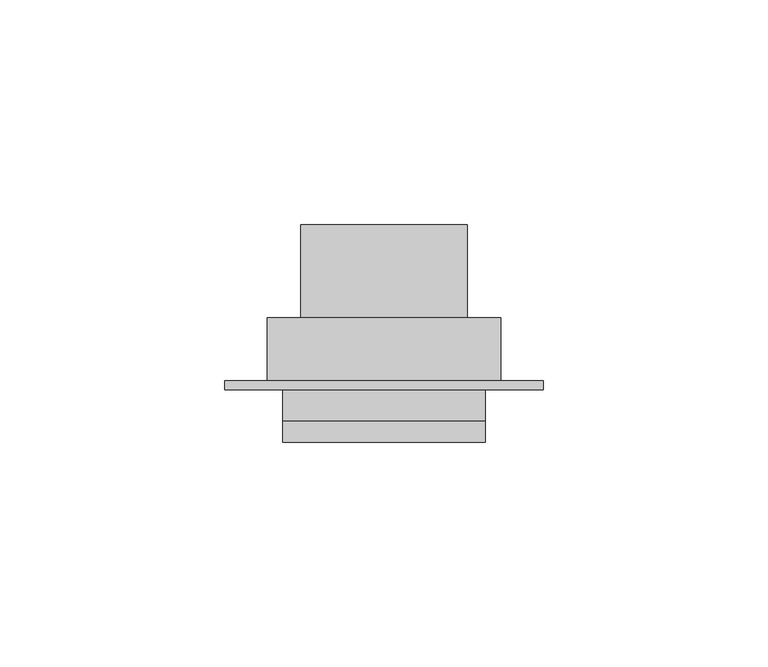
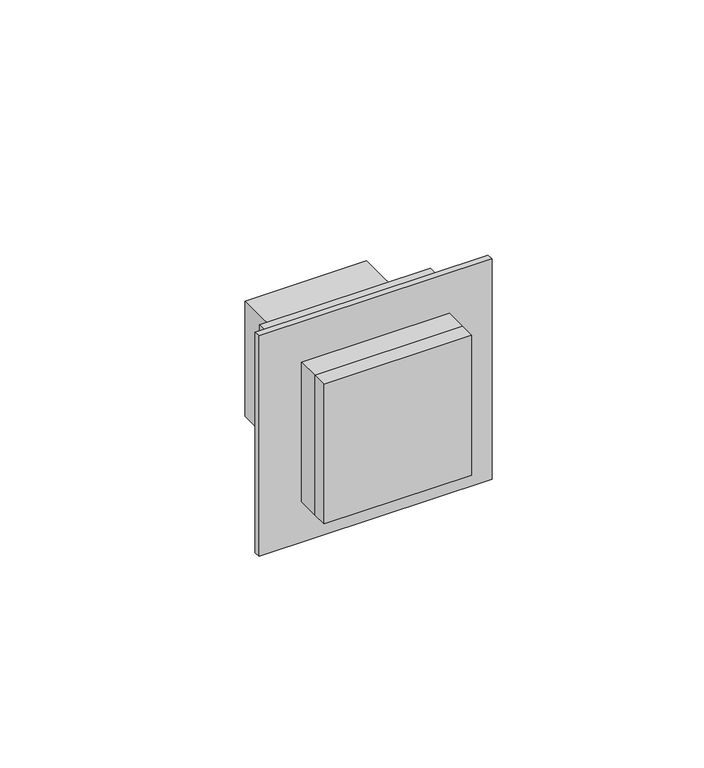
"""IFC4 building model written with IfcOpenShell, lengths in millimetres: proxy geometry."""

import ifcopenshell
import ifcopenshell.guid

model = None  # the IFC model being written
_history = None  # IfcOwnerHistory: only IFC2X3 demands one
_inside = {}  # id of a spatial element -> (the spatial element, [elements in it])
_under = {}  # id of a project, library or spatial element -> (it, [spatial elements below it])
_declared = {}  # id of a project -> (the project, [libraries it declares])
_typed = {}  # id of a type object -> (the type object, [elements of that type])
_made_of = {}  # id of a material, layer set ... -> (it, [elements and type objects made of it])


def new_model(schema):
    """Start an empty IFC model of exactly this schema.

    Asked for "IFC4X3", IfcOpenShell would pick the latest addendum, in which some entities
    have other attributes; the version numbers below select the first issue.
    IFC2X3 requires an IfcOwnerHistory on every rooted entity: one is made here for all.
    """
    global model, _history
    if schema == "IFC4X3":
        model = ifcopenshell.file(schema_version=(4, 3, 0, 0))
    else:
        model = ifcopenshell.file(schema=schema)
    _inside.clear()
    _under.clear()
    _declared.clear()
    _typed.clear()
    _made_of.clear()
    _history = None
    if model.schema == "IFC2X3":
        org = make("IfcOrganization", Name="unknown")
        user = make(
            "IfcPersonAndOrganization",
            ThePerson=make("IfcPerson", FamilyName="unknown"),
            TheOrganization=org,
        )
        app = make(
            "IfcApplication",
            ApplicationDeveloper=org,
            Version="unknown",
            ApplicationFullName="unknown",
            ApplicationIdentifier="unknown",
        )
        _history = make(
            "IfcOwnerHistory",
            OwningUser=user,
            OwningApplication=app,
            ChangeAction="ADDED",
            CreationDate=0,
        )
    return model


def make(cls, **values):
    """One entity of the class cls with the attributes given. An attribute that is None is left unset."""
    return model.create_entity(
        cls, **{name: value for name, value in values.items() if value is not None}
    )


def rooted(cls, **values):
    """An entity with a GlobalId (a new one), such as an element, a storey or a relation."""
    return make(cls, GlobalId=ifcopenshell.guid.new(), OwnerHistory=_history, **values)


def si_unit(unit_type, name, prefix=None):
    """IfcSIUnit, for example si_unit("LENGTHUNIT", "METRE", prefix="MILLI")."""
    return make("IfcSIUnit", UnitType=unit_type, Prefix=prefix, Name=name)


def assignment(units):
    """IfcUnitAssignment: the units of a project."""
    return None if units is None else make("IfcUnitAssignment", Units=units)


def point(xyz):
    """IfcCartesianPoint."""
    return None if xyz is None else make("IfcCartesianPoint", Coordinates=xyz)


def direction(xyz):
    """IfcDirection."""
    return None if xyz is None else make("IfcDirection", DirectionRatios=xyz)


def frame(location, z_axis=None, x_axis=None):
    """IfcAxis2Placement3D, a coordinate frame: its origin and axes. An axis left out is left unset."""
    return make(
        "IfcAxis2Placement3D",
        Location=point(location),
        Axis=direction(z_axis),
        RefDirection=direction(x_axis),
    )


def origin():
    """The frame at (0, 0, 0) with its axes left unset."""
    return frame((0.0, 0.0, 0.0))


def place(relative_to, where):
    """IfcLocalPlacement: puts the frame where relative to a parent placement (None: the world)."""
    return make(
        "IfcLocalPlacement", PlacementRelTo=relative_to, RelativePlacement=where
    )


def context(
    kind, dimensions, precision=None, world=None, true_north=None, identifier=None
):
    """IfcGeometricRepresentationContext, for example the 3D "Model" context."""
    return make(
        "IfcGeometricRepresentationContext",
        ContextIdentifier=identifier,
        ContextType=kind,
        CoordinateSpaceDimension=dimensions,
        Precision=precision,
        WorldCoordinateSystem=world,
        TrueNorth=true_north,
    )


def project(units=None, contexts=None):
    """IfcProject with its units and contexts."""
    return rooted(
        "IfcProject",
        Name="project",
        RepresentationContexts=contexts,
        UnitsInContext=assignment(units),
    )


def spatial(cls, under=None, at=None, **own):
    """A site, building, storey or space (cls), placed at a placement, below another one or the project."""
    s = rooted(cls, ObjectPlacement=at, **own)
    if under is not None:
        _under.setdefault(under.id(), (under, []))[1].append(s)
    return s


def polyline(points):
    """IfcPolyline through the points."""
    return make("IfcPolyline", Points=[point(p) for p in points])


def circle_curve(where, radius):
    """IfcCircle in the frame where."""
    return make("IfcCircle", Position=where, Radius=radius)


def outline(outer, holes=None, kind="AREA"):
    """IfcArbitraryClosedProfileDef: a profile drawn as a closed curve; with holes, ...WithVoids."""
    if holes is None:
        return make("IfcArbitraryClosedProfileDef", ProfileType=kind, OuterCurve=outer)
    return make(
        "IfcArbitraryProfileDefWithVoids",
        ProfileType=kind,
        OuterCurve=outer,
        InnerCurves=holes,
    )


def extrude(swept, where, along, depth):
    """IfcExtrudedAreaSolid: the profile swept, set in the frame where, extruded along a direction by depth."""
    return make(
        "IfcExtrudedAreaSolid",
        SweptArea=swept,
        Position=where,
        ExtrudedDirection=direction(along),
        Depth=depth,
    )


def shape(context_of_items, identifier, shape_type, items):
    """IfcShapeRepresentation: the items that make up one representation, for example the "Body"."""
    return make(
        "IfcShapeRepresentation",
        ContextOfItems=context_of_items,
        RepresentationIdentifier=identifier,
        RepresentationType=shape_type,
        Items=items,
    )


def source(mapping_origin, context_of_items, identifier, shape_type, items):
    """IfcRepresentationMap: a shape defined once, which mapped items show again and again."""
    return make(
        "IfcRepresentationMap",
        MappingOrigin=mapping_origin,
        MappedRepresentation=shape(context_of_items, identifier, shape_type, items),
    )


def transform(
    local_origin,
    x_axis=None,
    y_axis=None,
    z_axis=None,
    scale=None,
    scale2=None,
    scale3=None,
    uniform=True,
):
    """IfcCartesianTransformationOperator3D, or its non-uniform kind. x_axis, y_axis, z_axis: its Axis1, 2, 3."""
    if uniform:
        return make(
            "IfcCartesianTransformationOperator3D",
            Axis1=direction(x_axis),
            Axis2=direction(y_axis),
            LocalOrigin=point(local_origin),
            Scale=scale,
            Axis3=direction(z_axis),
        )
    return make(
        "IfcCartesianTransformationOperator3DnonUniform",
        Axis1=direction(x_axis),
        Axis2=direction(y_axis),
        LocalOrigin=point(local_origin),
        Scale=scale,
        Axis3=direction(z_axis),
        Scale2=scale2,
        Scale3=scale3,
    )


def mapped(mapping_source, mapping_target):
    """IfcMappedItem: shows the shape of a source again, moved by a transform."""
    return make(
        "IfcMappedItem", MappingSource=mapping_source, MappingTarget=mapping_target
    )


def made_of(thing, what):
    """Note that an element or type object is made of a material, layer set ...; save() writes the relation."""
    if what is not None:
        _made_of.setdefault(what.id(), (what, []))[1].append(thing)
    return thing


def element(
    cls,
    number,
    at=None,
    inside=None,
    cuts=None,
    type_object=None,
    material=None,
    context=None,
    identifier="Body",
    shape_type=None,
    held_by="IfcProductDefinitionShape",
    body=None,
    shapes=None,
    **own,
):
    """One element of the class cls, such as IfcWall. Its Tag is "e" and its number.

    at: its placement. inside: the storey or other place that contains it. cuts: it is an
    opening in that element (IfcRelVoidsElement). A single representation is given by context,
    identifier, shape_type and body (its items); several are given by shapes. held_by: the class
    of the entity that holds the representations. save() writes the other relations.
    """
    e = rooted(cls, Tag="e%d" % number, ObjectPlacement=at, **own)
    if body is not None:
        shapes = [shape(context, identifier, shape_type, body)]
    if shapes is not None:
        e.Representation = make(held_by, Representations=shapes)
    if inside is not None:
        _inside.setdefault(inside.id(), (inside, []))[1].append(e)
    if cuts is not None:
        rooted(
            "IfcRelVoidsElement", RelatingBuildingElement=cuts, RelatedOpeningElement=e
        )
    if type_object is not None:
        _typed.setdefault(type_object.id(), (type_object, []))[1].append(e)
    return made_of(e, material)


def aggregate(whole, parts):
    """IfcRelAggregates: a whole, such as a stair, and the parts it consists of."""
    return rooted("IfcRelAggregates", RelatingObject=whole, RelatedObjects=parts)


def save(model, path):
    """Write the relations noted so far, then the file.

    IfcRelAggregates (storeys below a building ...), IfcRelContainedInSpatialStructure (elements
    in a storey), IfcRelDefinesByType, IfcRelAssociatesMaterial and IfcRelDeclares: one each for
    every whole, place, type object, material and project.
    """
    for whole, parts in _under.values():
        aggregate(whole, parts)
    for where, things in _inside.values():
        rooted(
            "IfcRelContainedInSpatialStructure",
            RelatedElements=things,
            RelatingStructure=where,
        )
    for kind, things in _typed.values():
        rooted("IfcRelDefinesByType", RelatedObjects=things, RelatingType=kind)
    for what, things in _made_of.values():
        rooted("IfcRelAssociatesMaterial", RelatedObjects=things, RelatingMaterial=what)
    for by, libraries in _declared.values():
        rooted("IfcRelDeclares", RelatingContext=by, RelatedDefinitions=libraries)
    model.write(path)


def plane_surface(at):
    """IfcPlane: the flat surface through the origin of the frame at, square to its z axis."""
    return make("IfcPlane", Position=at)


def revolved_surface(curve, axis_point, axis_direction):
    """IfcSurfaceOfRevolution: the curve turned about the line through axis_point along axis_direction."""
    return make(
        "IfcSurfaceOfRevolution",
        SweptCurve=make("IfcArbitraryOpenProfileDef", ProfileType="CURVE", Curve=curve),
        AxisPosition=make("IfcAxis1Placement", Location=point(axis_point), Axis=direction(axis_direction)),
    )


def advanced_brep(points, edges, surfaces, faces):
    """IfcAdvancedBrep: a solid bounded by faces that lie on surfaces and meet in shared edges.

    An edge is (start, end): straight between two places in points (the first is 0);
    or (start, end, curve); or (start, end, curve, False) where it runs against its curve.
    A face is (place in surfaces, loops), or (place, loops, False) where it looks against
    its surface's normal. A loop lists edges by number (the first is 1), with a minus sign
    where the edge is run from its end to its start. The first loop is the outer one.
    """
    corners = [point(p) for p in points]
    vertices = [make("IfcVertexPoint", VertexGeometry=c) for c in corners]
    made = []
    for start, end, *more in edges:
        made.append(
            make(
                "IfcEdgeCurve",
                EdgeStart=vertices[start],
                EdgeEnd=vertices[end],
                EdgeGeometry=more[0] if more else make("IfcPolyline", Points=[corners[start], corners[end]]),
                SameSense=more[1] if len(more) > 1 else True,
            )
        )
    hull = []
    for where, loops, *sense in faces:
        bounds = []
        for j, loop in enumerate(loops):
            ring = [make("IfcOrientedEdge", EdgeElement=made[abs(k) - 1], Orientation=k > 0) for k in loop]
            bounds.append(
                make(
                    "IfcFaceOuterBound" if j == 0 else "IfcFaceBound",
                    Bound=make("IfcEdgeLoop", EdgeList=ring),
                    Orientation=True,
                )
            )
        hull.append(make("IfcAdvancedFace", Bounds=bounds, FaceSurface=surfaces[where], SameSense=sense[0] if sense else True))
    return make("IfcAdvancedBrep", Outer=make("IfcClosedShell", CfsFaces=hull))


def electrical_fixtures_8fb45597(model_context):
    return source(origin(), model_context, "Body", "SolidModel", [
        extrude(outline(polyline([(-22.5, -43.7), (22.5, -43.7), (22.5, -48.4), (-22.5, -48.4), (-22.5, -43.7)])), frame((0.0, 0.0, -22.5), z_axis=(0.0, 0.0, 1.0), x_axis=(1.0, 0.0, 0.0)), (0.0, 0.0, 1.0), 45.0),
        advanced_brep(
        [(22.5, -43.7, -22.5), (22.5, -43.7, 22.5), (-22.5, -43.7, 22.5), (-22.5, -43.7, -22.5), (-19.7737199, -43.7, 2.25), (-16.2525449, -43.7, 2.25), (-16.2525449, -43.7, 11.6556761), (-1.5019291, -43.7, 19.6409348), (-1.5019291, -43.7, 13.9435255), (1.5019291, -43.7, 13.9435255), (1.5019291, -43.7, 19.6409348), (16.2525449, -43.7, 11.6556761), (16.2525449, -43.7, 2.25), (19.7737199, -43.7, 2.25), (19.7737199, -43.7, -3.75), (16.2525449, -43.7, -3.75), (16.2525449, -43.7, -11.6556761), (1.5019291, -43.7, -20.2646918), (1.5019291, -43.7, -13.9435255), (-1.5019291, -43.7, -13.9435255), (-1.5019291, -43.7, -20.2646918), (-16.2525449, -43.7, -11.6556761), (-16.2525449, -43.7, -3.75), (-19.7737199, -43.7, -3.75), (-22.5, -36.7, -22.5), (22.5, -36.7, -22.5), (-22.5, -36.7, 22.5), (22.5, -36.7, 22.5), (-19.7737199, -23.7, 2.25), (-19.7737199, -23.7, -3.75), (-16.2525449, -23.7, -3.75), (-16.2525449, -23.7, -11.6556761), (-1.5019291, -23.7, -20.2646918), (-1.5019291, -23.7, -13.9435255), (1.5019291, -23.7, -13.9435255), (1.5019291, -23.7, -20.2646918), (16.2525449, -23.7, -11.6556761), (16.2525449, -23.7, -3.75), (19.7737199, -23.7, -3.75), (19.7737199, -23.7, 2.25), (16.2525449, -23.7, 2.25), (16.2525449, -23.7, 11.6556761), (1.5019291, -23.7, 19.6409348), (1.5019291, -23.7, 13.9435255), (-1.5019291, -23.7, 13.9435255), (-1.5019291, -23.7, 19.6409348), (-16.2525449, -23.7, 11.6556761), (-16.2525449, -23.7, 2.25), (-13.0, -23.7, -0.75), (-6.0, -23.7, -0.75), (6.0, -23.7, -0.75), (13.0, -23.7, -0.75), (35.45, -34.7, -35.45), (-35.45, -34.7, -35.45), (-35.45, -34.7, 35.45), (35.45, -34.7, 35.45), (-26.0, -34.7, -26.0), (26.0, -34.7, -26.0), (26.0, -34.7, 26.0), (-26.0, -34.7, 26.0), (35.45, -36.7, -35.45), (35.45, -36.7, 35.45), (-35.45, -36.7, 35.45), (-35.45, -36.7, -35.45), (26.0, -20.7, -26.0), (-26.0, -20.7, -26.0), (-26.0, -20.7, 26.0), (26.0, -20.7, 26.0), (-18.5, -20.7, -18.5), (18.5, -20.7, -18.5), (18.5, -20.7, 18.5), (-18.5, -20.7, 18.5), (-13.0, -3.7, -0.75), (-6.0, -3.7, -0.75), (6.0, -3.7, -0.75), (13.0, -3.7, -0.75), (18.5, 0.0, -18.5), (-18.5, 0.0, -18.5), (-18.5, 0.0, 18.5), (18.5, 0.0, 18.5)],
        [
            (0, 1),
            (1, 2),
            (2, 3),
            (3, 0),
            (4, 5),
            (5, 6),
            (6, 7, circle_curve(frame((0.0, -43.7, -0.75), z_axis=(0.0, 1.0, 0.0), x_axis=(1.0, 0.0, 0.0)), 20.4461736)),
            (7, 8),
            (8, 9),
            (9, 10),
            (10, 11, circle_curve(frame((0.0, -43.7, -0.75), z_axis=(0.0, 1.0, 0.0), x_axis=(1.0, 0.0, 0.0)), 20.4461736)),
            (11, 12),
            (12, 13),
            (13, 14, circle_curve(frame((0.0, -43.7, -0.75), z_axis=(0.0, 1.0, 0.0), x_axis=(1.0, 0.0, 0.0)), 20.0)),
            (14, 15),
            (15, 16),
            (16, 17, circle_curve(frame((0.0, -43.7, -0.75), z_axis=(0.0, 1.0, 0.0), x_axis=(1.0, 0.0, 0.0)), 19.5724037)),
            (17, 18),
            (18, 19),
            (19, 20),
            (20, 21, circle_curve(frame((0.0, -43.7, -0.75), z_axis=(0.0, 1.0, 0.0), x_axis=(1.0, 0.0, 0.0)), 19.5724037)),
            (21, 22),
            (22, 23),
            (23, 4, circle_curve(frame((0.0, -43.7, -0.75), z_axis=(0.0, 1.0, 0.0), x_axis=(1.0, 0.0, 0.0)), 20.0)),
            (3, 24),
            (24, 25),
            (25, 0),
            (2, 26),
            (26, 24),
            (1, 27),
            (27, 26),
            (25, 27),
            (28, 29, circle_curve(frame((0.0, -23.7, -0.75), z_axis=(0.0, -1.0, 0.0), x_axis=(1.0, 0.0, 0.0)), 20.0)),
            (29, 30),
            (30, 31),
            (31, 32, circle_curve(frame((0.0, -23.7, -0.75), z_axis=(0.0, -1.0, 0.0), x_axis=(1.0, 0.0, 0.0)), 19.5724037)),
            (32, 33),
            (33, 34),
            (34, 35),
            (35, 36, circle_curve(frame((0.0, -23.7, -0.75), z_axis=(0.0, -1.0, 0.0), x_axis=(1.0, 0.0, 0.0)), 19.5724037)),
            (36, 37),
            (37, 38),
            (38, 39, circle_curve(frame((0.0, -23.7, -0.75), z_axis=(0.0, -1.0, 0.0), x_axis=(1.0, 0.0, 0.0)), 20.0)),
            (39, 40),
            (40, 41),
            (41, 42, circle_curve(frame((0.0, -23.7, -0.75), z_axis=(0.0, -1.0, 0.0), x_axis=(1.0, 0.0, 0.0)), 20.4461736)),
            (42, 43),
            (43, 44),
            (44, 45),
            (45, 46, circle_curve(frame((0.0, -23.7, -0.75), z_axis=(0.0, -1.0, 0.0), x_axis=(1.0, 0.0, 0.0)), 20.4461736)),
            (46, 47),
            (47, 28),
            (48, 49, circle_curve(frame((-9.5, -23.7, -0.75), z_axis=(0.0, 1.0, 0.0), x_axis=(1.0, 0.0, 0.0)), 3.5)),
            (49, 48, circle_curve(frame((-9.5, -23.7, -0.75), z_axis=(0.0, 1.0, 0.0), x_axis=(1.0, 0.0, 0.0)), 3.5)),
            (50, 51, circle_curve(frame((9.5, -23.7, -0.75), z_axis=(0.0, 1.0, 0.0), x_axis=(1.0, 0.0, 0.0)), 3.5)),
            (51, 50, circle_curve(frame((9.5, -23.7, -0.75), z_axis=(0.0, 1.0, 0.0), x_axis=(1.0, 0.0, 0.0)), 3.5)),
            (47, 5),
            (4, 28),
            (46, 6),
            (45, 7),
            (44, 8),
            (43, 9),
            (42, 10),
            (41, 11),
            (40, 12),
            (39, 13),
            (38, 14),
            (37, 15),
            (36, 16),
            (35, 17),
            (34, 18),
            (33, 19),
            (32, 20),
            (31, 21),
            (30, 22),
            (29, 23),
            (52, 53),
            (53, 54),
            (54, 55),
            (55, 52),
            (56, 57),
            (57, 58),
            (58, 59),
            (59, 56),
            (60, 61),
            (61, 62),
            (62, 63),
            (63, 60),
            (52, 60),
            (63, 53),
            (62, 54),
            (61, 55),
            (64, 65),
            (65, 66),
            (66, 67),
            (67, 64),
            (68, 69),
            (69, 70),
            (70, 71),
            (71, 68),
            (64, 57),
            (56, 65),
            (59, 66),
            (58, 67),
            (72, 73, circle_curve(frame((-9.5, -3.7, -0.75), z_axis=(0.0, -1.0, 0.0), x_axis=(1.0, 0.0, 0.0)), 3.5)),
            (73, 72, circle_curve(frame((-9.5, -3.7, -0.75), z_axis=(0.0, -1.0, 0.0), x_axis=(1.0, 0.0, 0.0)), 3.5)),
            (74, 75, circle_curve(frame((9.5, -3.7, -0.75), z_axis=(0.0, -1.0, 0.0), x_axis=(1.0, 0.0, 0.0)), 3.5)),
            (75, 74, circle_curve(frame((9.5, -3.7, -0.75), z_axis=(0.0, -1.0, 0.0), x_axis=(1.0, 0.0, 0.0)), 3.5)),
            (73, 49),
            (48, 72),
            (75, 51),
            (50, 74),
            (76, 77),
            (77, 78),
            (78, 79),
            (79, 76),
            (76, 69),
            (68, 77),
            (71, 78),
            (70, 79),
        ],
        [
            plane_surface(frame((-22.5, -43.7, -22.5), z_axis=(0.0, -1.0, 0.0), x_axis=(1.0, 0.0, 0.0))),
            plane_surface(frame((22.5, -36.7, -22.5), z_axis=(0.0, 0.0, -1.0), x_axis=(0.0, -1.0, 0.0))),
            plane_surface(frame((-22.5, -36.7, -22.5), z_axis=(-1.0, 0.0, 0.0), x_axis=(0.0, -1.0, 0.0))),
            plane_surface(frame((-22.5, -36.7, 22.5), z_axis=(0.0, 0.0, 1.0), x_axis=(0.0, -1.0, 0.0))),
            plane_surface(frame((22.5, -36.7, 22.5), z_axis=(1.0, 0.0, 0.0), x_axis=(0.0, -1.0, 0.0))),
            plane_surface(frame((-19.7737199, -23.7, 2.25), z_axis=(0.0, -1.0, 0.0), x_axis=(1.0, 0.0, 0.0))),
            plane_surface(frame((-19.7737199, -23.7, 2.25), z_axis=(0.0, 0.0, -1.0), x_axis=(0.0, -1.0, 0.0))),
            plane_surface(frame((-16.2525449, -23.7, 2.25), z_axis=(1.0, 0.0, 0.0), x_axis=(0.0, -1.0, 0.0))),
            revolved_surface(polyline([(20.4461736, -23.7, -0.75), (20.4461736, -43.7, -0.75)]), (0.0, -43.7, -0.75), (0.0, 1.0, 0.0)),
            plane_surface(frame((-1.5019291, -23.7, 19.6409348), z_axis=(-1.0, 0.0, 0.0), x_axis=(0.0, -1.0, 0.0))),
            plane_surface(frame((-1.5019291, -23.7, 13.9435255), z_axis=(0.0, 0.0, -1.0), x_axis=(0.0, -1.0, 0.0))),
            plane_surface(frame((1.5019291, -23.7, 13.9435255), z_axis=(1.0, 0.0, 0.0), x_axis=(0.0, -1.0, 0.0))),
            plane_surface(frame((16.2525449, -23.7, 11.6556761), z_axis=(-1.0, 0.0, 0.0), x_axis=(0.0, -1.0, 0.0))),
            plane_surface(frame((16.2525449, -23.7, 2.25), z_axis=(0.0, 0.0, -1.0), x_axis=(0.0, -1.0, 0.0))),
            revolved_surface(polyline([(20.0, -23.7, -0.75), (20.0, -43.7, -0.75)]), (0.0, -43.7, -0.75), (0.0, 1.0, 0.0)),
            plane_surface(frame((19.7737199, -23.7, -3.75), z_axis=(0.0, 0.0, 1.0), x_axis=(0.0, -1.0, 0.0))),
            plane_surface(frame((16.2525449, -23.7, -3.75), z_axis=(-1.0, 0.0, 0.0), x_axis=(0.0, -1.0, 0.0))),
            revolved_surface(polyline([(19.5724037, -23.7, -0.75), (19.5724037, -43.7, -0.75)]), (0.0, -43.7, -0.75), (0.0, 1.0, 0.0)),
            plane_surface(frame((1.5019291, -23.7, -20.2646918), z_axis=(1.0, 0.0, 0.0), x_axis=(0.0, -1.0, 0.0))),
            plane_surface(frame((1.5019291, -23.7, -13.9435255), z_axis=(0.0, 0.0, 1.0), x_axis=(0.0, -1.0, 0.0))),
            plane_surface(frame((-1.5019291, -23.7, -13.9435255), z_axis=(-1.0, 0.0, 0.0), x_axis=(0.0, -1.0, 0.0))),
            plane_surface(frame((-16.2525449, -23.7, -11.6556761), z_axis=(1.0, 0.0, 0.0), x_axis=(0.0, -1.0, 0.0))),
            plane_surface(frame((-16.2525449, -23.7, -3.75), z_axis=(0.0, 0.0, 1.0), x_axis=(0.0, -1.0, 0.0))),
            plane_surface(frame((-35.45, -34.7, -35.45), z_axis=(0.0, 1.0, 0.0), x_axis=(-1.0, 0.0, 0.0))),
            plane_surface(frame((-35.45, -36.7, -35.45), z_axis=(0.0, -1.0, 0.0), x_axis=(1.0, 0.0, 0.0))),
            plane_surface(frame((35.45, -34.7, -35.45), z_axis=(0.0, 0.0, -1.0), x_axis=(0.0, -1.0, 0.0))),
            plane_surface(frame((-35.45, -34.7, -35.45), z_axis=(-1.0, 0.0, 0.0), x_axis=(0.0, -1.0, 0.0))),
            plane_surface(frame((-35.45, -34.7, 35.45), z_axis=(0.0, 0.0, 1.0), x_axis=(0.0, -1.0, 0.0))),
            plane_surface(frame((35.45, -34.7, 35.45), z_axis=(1.0, 0.0, 0.0), x_axis=(0.0, -1.0, 0.0))),
            plane_surface(frame((-26.0, -20.7, -26.0), z_axis=(0.0, 1.0, 0.0), x_axis=(-1.0, 0.0, 0.0))),
            plane_surface(frame((26.0, -20.7, -26.0), z_axis=(0.0, 0.0, -1.0), x_axis=(0.0, -1.0, 0.0))),
            plane_surface(frame((-26.0, -20.7, -26.0), z_axis=(-1.0, 0.0, 0.0), x_axis=(0.0, -1.0, 0.0))),
            plane_surface(frame((-26.0, -20.7, 26.0), z_axis=(0.0, 0.0, 1.0), x_axis=(0.0, -1.0, 0.0))),
            plane_surface(frame((26.0, -20.7, 26.0), z_axis=(1.0, 0.0, 0.0), x_axis=(0.0, -1.0, 0.0))),
            plane_surface(frame((-6.0, -3.7, -0.75), z_axis=(0.0, -1.0, 0.0), x_axis=(0.0, 0.0, -1.0))),
            revolved_surface(polyline([(-6.0, -3.6999999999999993, -0.75), (-6.0, -23.7, -0.75)]), (-9.5, -23.7, -0.75), (0.0, 1.0, 0.0)),
            revolved_surface(polyline([(13.0, -3.6999999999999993, -0.75), (13.0, -23.7, -0.75)]), (9.5, -34.7, -0.75), (0.0, 1.0, 0.0)),
            plane_surface(frame((-18.5, 0.0, -18.5), z_axis=(0.0, 1.0, 0.0), x_axis=(-1.0, 0.0, 0.0))),
            plane_surface(frame((18.5, 0.0, -18.5), z_axis=(0.0, 0.0, -1.0), x_axis=(0.0, -1.0, 0.0))),
            plane_surface(frame((-18.5, 0.0, -18.5), z_axis=(-1.0, 0.0, 0.0), x_axis=(0.0, -1.0, 0.0))),
            plane_surface(frame((-18.5, 0.0, 18.5), z_axis=(0.0, 0.0, 1.0), x_axis=(0.0, -1.0, 0.0))),
            plane_surface(frame((18.5, 0.0, 18.5), z_axis=(1.0, 0.0, 0.0), x_axis=(0.0, -1.0, 0.0))),
        ],
        [
            (0, [[1, 2, 3, 4], [5, 6, 7, 8, 9, 10, 11, 12, 13, 14, 15, 16, 17, 18, 19, 20, 21, 22, 23, 24]]),
            (1, [[-4, 25, 26, 27]]),
            (2, [[-3, 28, 29, -25]]),
            (3, [[-2, 30, 31, -28]]),
            (4, [[-1, -27, 32, -30]]),
            (5, [[33, 34, 35, 36, 37, 38, 39, 40, 41, 42, 43, 44, 45, 46, 47, 48, 49, 50, 51, 52], [53, 54], [55, 56]]),
            (6, [[-52, 57, -5, 58]]),
            (7, [[-51, 59, -6, -57]]),
            (8, [[-50, 60, -7, -59]]),
            (9, [[-49, 61, -8, -60]]),
            (10, [[-48, 62, -9, -61]]),
            (11, [[-47, 63, -10, -62]]),
            (8, [[-46, 64, -11, -63]]),
            (12, [[-45, 65, -12, -64]]),
            (13, [[-44, 66, -13, -65]]),
            (14, [[-43, 67, -14, -66]]),
            (15, [[-42, 68, -15, -67]]),
            (16, [[-41, 69, -16, -68]]),
            (17, [[-40, 70, -17, -69]]),
            (18, [[-39, 71, -18, -70]]),
            (19, [[-38, 72, -19, -71]]),
            (20, [[-37, 73, -20, -72]]),
            (17, [[-36, 74, -21, -73]]),
            (21, [[-35, 75, -22, -74]]),
            (22, [[-34, 76, -23, -75]]),
            (14, [[-33, -58, -24, -76]]),
            (23, [[77, 78, 79, 80], [81, 82, 83, 84]]),
            (24, [[85, 86, 87, 88], [-26, -29, -31, -32]]),
            (25, [[-77, 89, -88, 90]]),
            (26, [[-78, -90, -87, 91]]),
            (27, [[-79, -91, -86, 92]]),
            (28, [[-80, -92, -85, -89]]),
            (29, [[93, 94, 95, 96], [97, 98, 99, 100]]),
            (30, [[-93, 101, -81, 102]]),
            (31, [[-94, -102, -84, 103]]),
            (32, [[-95, -103, -83, 104]]),
            (33, [[-96, -104, -82, -101]]),
            (34, [[105, 106]]),
            (34, [[107, 108]]),
            (35, [[-106, 109, -53, 110]]),
            (35, [[-105, -110, -54, -109]]),
            (36, [[-108, 111, -55, 112]]),
            (36, [[-107, -112, -56, -111]]),
            (37, [[113, 114, 115, 116]]),
            (38, [[-113, 117, -97, 118]]),
            (39, [[-114, -118, -100, 119]]),
            (40, [[-115, -119, -99, 120]]),
            (41, [[-116, -120, -98, -117]]),
        ],
    ),
    ])


if __name__ == "__main__":
    model = new_model("IFC4")
    model_context = context("Model", 3, world=origin())
    ifc_project = project(units=[si_unit("LENGTHUNIT", "METRE", prefix="MILLI")], contexts=[model_context])
    site = spatial("IfcSite", under=ifc_project)
    building = spatial("IfcBuilding", under=site)
    placement = place(None, origin())
    electrical_fixtures_shape = electrical_fixtures_8fb45597(model_context)
    element("IfcBuildingElementProxy", 1, Name="Electrical Fixtures", at=placement, inside=building, context=model_context, shape_type="MappedRepresentation", body=[
        mapped(electrical_fixtures_shape, transform((0.0, 0.0, 0.0), x_axis=(1.0, 0.0, 0.0), y_axis=(0.0, 1.0, 0.0), z_axis=(0.0, 0.0, 1.0))),
    ])
    save(model, "model.ifc")
